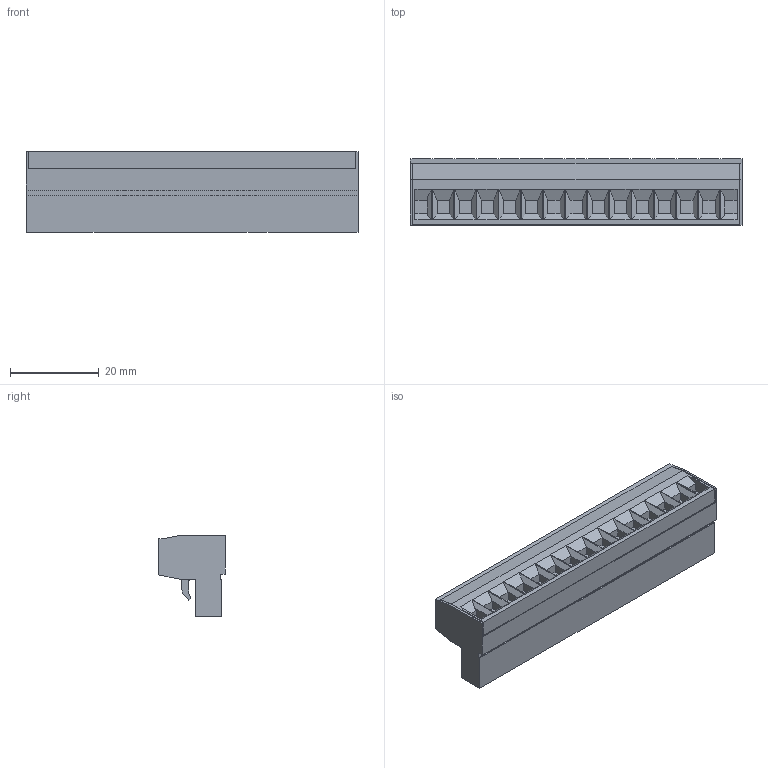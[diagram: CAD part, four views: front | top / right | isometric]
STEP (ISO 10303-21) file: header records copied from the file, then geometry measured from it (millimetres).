
FILE_DESCRIPTION((''),'2;1');
FILE_NAME('395205115','2015-02-05T',('ME'),(''),'PRO/ENGINEER BY PARAMETRIC TECHNOLOGY CORPORATION, 2011490','PRO/ENGINEER BY PARAMETRIC TECHNOLOGY CORPORATION, 2011490','');
FILE_SCHEMA(('CONFIG_CONTROL_DESIGN'));
Length unit declared in the file: inch
Products named in the file (1): 395205115
Bounding box: 75.01 x 14.99 x 18.29 mm (x, y, z)
Volume: 13135.9 mm3; surface area: 6972.3 mm2
Topology: 1 solids, 1 shells, 542 faces, 1290 edges, 900 vertices
Faces by surface type: plane 416, cylinder 126
Entity records: 15415 total; most frequent: CARTESIAN_POINT 2643, DIRECTION 2628, ORIENTED_EDGE 2490, EDGE_CURVE 1245, VECTOR 1038, LINE 1038, VERTEX_POINT 810, AXIS2_PLACEMENT_3D 795
